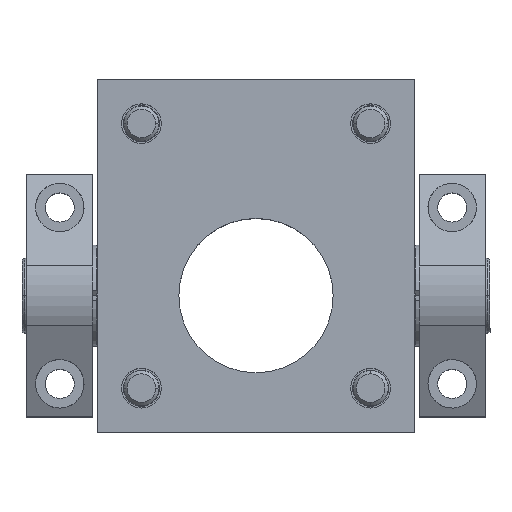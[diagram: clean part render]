
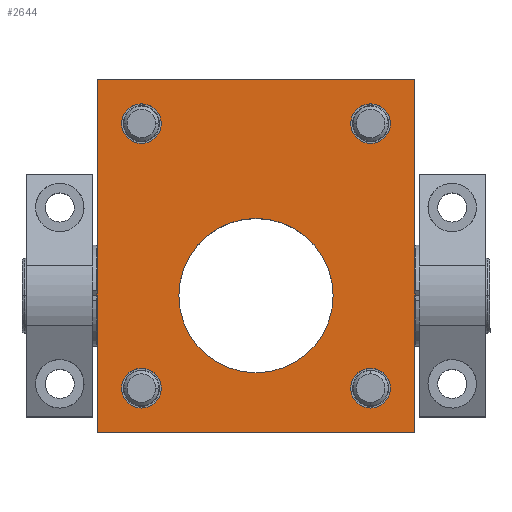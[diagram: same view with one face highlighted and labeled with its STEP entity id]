
A CAD part, top view. The second image highlights one B-rep face of the part: STEP entity #2644.
In plain terms, the highlighted planar face has unit normal (0, 0, 1).
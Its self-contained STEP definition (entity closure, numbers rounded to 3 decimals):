
#11 = ORIENTED_EDGE ( 'NONE', *, *, #3378, .T. ) ;
#56 = AXIS2_PLACEMENT_3D ( 'NONE', #6029, #5511, #1938 ) ;
#67 = CARTESIAN_POINT ( 'NONE',  ( -26., 39., -32. ) ) ;
#73 = CIRCLE ( 'NONE', #3121, 4.5 ) ;
#88 = DIRECTION ( 'NONE',  ( 1., 0., 0. ) ) ;
#186 = FACE_BOUND ( 'NONE', #780, .T. ) ;
#378 = LINE ( 'NONE', #5936, #584 ) ;
#560 = DIRECTION ( 'NONE',  ( 0., 1., 0. ) ) ;
#584 = VECTOR ( 'NONE', #2364, 1000. ) ;
#597 = VECTOR ( 'NONE', #920, 1000. ) ;
#617 = LINE ( 'NONE', #4610, #5014 ) ;
#663 = EDGE_CURVE ( 'NONE', #1255, #5333, #1238, .T. ) ;
#692 = CIRCLE ( 'NONE', #4702, 4.5 ) ;
#749 = AXIS2_PLACEMENT_3D ( 'NONE', #67, #2091, #560 ) ;
#769 = CARTESIAN_POINT ( 'NONE',  ( 26., -16.5, -32. ) ) ;
#780 = EDGE_LOOP ( 'NONE', ( #11, #2663 ) ) ;
#854 = CIRCLE ( 'NONE', #749, 4.5 ) ;
#861 = ORIENTED_EDGE ( 'NONE', *, *, #1909, .T. ) ;
#920 = DIRECTION ( 'NONE',  ( 0., -1., 0. ) ) ;
#927 = ORIENTED_EDGE ( 'NONE', *, *, #1486, .F. ) ;
#942 = DIRECTION ( 'NONE',  ( 0., 0., -1. ) ) ;
#1034 = CARTESIAN_POINT ( 'NONE',  ( -26., 34.5, -32. ) ) ;
#1048 = CARTESIAN_POINT ( 'NONE',  ( 0., 0., -32. ) ) ;
#1086 = VERTEX_POINT ( 'NONE', #3540 ) ;
#1106 = DIRECTION ( 'NONE',  ( 0., 1., 0. ) ) ;
#1168 = ORIENTED_EDGE ( 'NONE', *, *, #5071, .T. ) ;
#1192 = ORIENTED_EDGE ( 'NONE', *, *, #1267, .T. ) ;
#1213 = CIRCLE ( 'NONE', #56, 4.5 ) ;
#1238 = CIRCLE ( 'NONE', #2304, 4.5 ) ;
#1253 = CIRCLE ( 'NONE', #1906, 4.5 ) ;
#1255 = VERTEX_POINT ( 'NONE', #769 ) ;
#1267 = EDGE_CURVE ( 'NONE', #4149, #4404, #73, .T. ) ;
#1380 = DIRECTION ( 'NONE',  ( 0., 1., 0. ) ) ;
#1426 = DIRECTION ( 'NONE',  ( 0., 1., 0. ) ) ;
#1486 = EDGE_CURVE ( 'NONE', #2241, #2411, #5949, .T. ) ;
#1528 = ORIENTED_EDGE ( 'NONE', *, *, #5021, .F. ) ;
#1633 = DIRECTION ( 'NONE',  ( 0., 0., -1. ) ) ;
#1697 = EDGE_LOOP ( 'NONE', ( #2788, #1528, #5229, #927 ) ) ;
#1712 = CARTESIAN_POINT ( 'NONE',  ( -26., -21., -32. ) ) ;
#1718 = VERTEX_POINT ( 'NONE', #4752 ) ;
#1721 = FACE_BOUND ( 'NONE', #4464, .T. ) ;
#1788 = FACE_OUTER_BOUND ( 'NONE', #1697, .T. ) ;
#1830 = CIRCLE ( 'NONE', #4439, 4.5 ) ;
#1870 = CIRCLE ( 'NONE', #6402, 17.5 ) ;
#1906 = AXIS2_PLACEMENT_3D ( 'NONE', #1712, #1633, #3239 ) ;
#1909 = EDGE_CURVE ( 'NONE', #4404, #4149, #854, .T. ) ;
#1938 = DIRECTION ( 'NONE',  ( 0., 1., 0. ) ) ;
#1993 = EDGE_CURVE ( 'NONE', #1718, #4544, #1830, .T. ) ;
#2004 = EDGE_LOOP ( 'NONE', ( #4543, #2042 ) ) ;
#2022 = EDGE_CURVE ( 'NONE', #5333, #1255, #4847, .T. ) ;
#2042 = ORIENTED_EDGE ( 'NONE', *, *, #1993, .T. ) ;
#2091 = DIRECTION ( 'NONE',  ( 0., 0., -1. ) ) ;
#2179 = CARTESIAN_POINT ( 'NONE',  ( 26., 39., -32. ) ) ;
#2204 = CARTESIAN_POINT ( 'NONE',  ( 26., -21., -32. ) ) ;
#2211 = CARTESIAN_POINT ( 'NONE',  ( 0., 9., -32. ) ) ;
#2227 = EDGE_LOOP ( 'NONE', ( #861, #1192 ) ) ;
#2241 = VERTEX_POINT ( 'NONE', #2583 ) ;
#2281 = CARTESIAN_POINT ( 'NONE',  ( 26., -25.5, -32. ) ) ;
#2304 = AXIS2_PLACEMENT_3D ( 'NONE', #2204, #5443, #4355 ) ;
#2364 = DIRECTION ( 'NONE',  ( -1., 0., 0. ) ) ;
#2407 = CARTESIAN_POINT ( 'NONE',  ( 0., 0., -32. ) ) ;
#2410 = EDGE_CURVE ( 'NONE', #2411, #4145, #378, .T. ) ;
#2411 = VERTEX_POINT ( 'NONE', #4365 ) ;
#2414 = ORIENTED_EDGE ( 'NONE', *, *, #663, .T. ) ;
#2514 = ORIENTED_EDGE ( 'NONE', *, *, #2022, .T. ) ;
#2531 = EDGE_CURVE ( 'NONE', #3722, #1086, #6405, .T. ) ;
#2583 = CARTESIAN_POINT ( 'NONE',  ( 36., 49., -32. ) ) ;
#2639 = ORIENTED_EDGE ( 'NONE', *, *, #2531, .T. ) ;
#2644 = ADVANCED_FACE ( 'NONE', ( #3782, #2729, #1721, #5160, #186, #1788 ), #4238, .T. ) ;
#2663 = ORIENTED_EDGE ( 'NONE', *, *, #5536, .T. ) ;
#2729 = FACE_BOUND ( 'NONE', #2227, .T. ) ;
#2788 = ORIENTED_EDGE ( 'NONE', *, *, #5551, .F. ) ;
#2822 = DIRECTION ( 'NONE',  ( 0., 0., -1. ) ) ;
#2835 = DIRECTION ( 'NONE',  ( 0., 0., -1. ) ) ;
#2938 = CARTESIAN_POINT ( 'NONE',  ( -36., 49., -32. ) ) ;
#3036 = VERTEX_POINT ( 'NONE', #5455 ) ;
#3065 = DIRECTION ( 'NONE',  ( 0., 0., -1. ) ) ;
#3121 = AXIS2_PLACEMENT_3D ( 'NONE', #5289, #2835, #4243 ) ;
#3187 = DIRECTION ( 'NONE',  ( 0., 0., 1. ) ) ;
#3239 = DIRECTION ( 'NONE',  ( 0., 1., 0. ) ) ;
#3310 = VERTEX_POINT ( 'NONE', #3474 ) ;
#3378 = EDGE_CURVE ( 'NONE', #3310, #3688, #1213, .T. ) ;
#3381 = CARTESIAN_POINT ( 'NONE',  ( 26., -21., -32. ) ) ;
#3474 = CARTESIAN_POINT ( 'NONE',  ( 26., 43.5, -32. ) ) ;
#3494 = CARTESIAN_POINT ( 'NONE',  ( 0., 17.5, -32. ) ) ;
#3520 = DIRECTION ( 'NONE',  ( 0., 1., 0. ) ) ;
#3540 = CARTESIAN_POINT ( 'NONE',  ( 0., -17.5, -32. ) ) ;
#3583 = CARTESIAN_POINT ( 'NONE',  ( -36., -31., -32. ) ) ;
#3625 = AXIS2_PLACEMENT_3D ( 'NONE', #2407, #942, #4849 ) ;
#3688 = VERTEX_POINT ( 'NONE', #5924 ) ;
#3722 = VERTEX_POINT ( 'NONE', #3494 ) ;
#3782 = FACE_BOUND ( 'NONE', #4024, .T. ) ;
#4015 = LINE ( 'NONE', #2938, #5212 ) ;
#4024 = EDGE_LOOP ( 'NONE', ( #2639, #1168 ) ) ;
#4145 = VERTEX_POINT ( 'NONE', #3583 ) ;
#4149 = VERTEX_POINT ( 'NONE', #1034 ) ;
#4238 = PLANE ( 'NONE',  #4575 ) ;
#4243 = DIRECTION ( 'NONE',  ( 0., 1., 0. ) ) ;
#4355 = DIRECTION ( 'NONE',  ( 0., 1., 0. ) ) ;
#4362 = DIRECTION ( 'NONE',  ( 0., 1., 0. ) ) ;
#4365 = CARTESIAN_POINT ( 'NONE',  ( 36., -31., -32. ) ) ;
#4404 = VERTEX_POINT ( 'NONE', #5761 ) ;
#4439 = AXIS2_PLACEMENT_3D ( 'NONE', #5384, #2822, #1380 ) ;
#4464 = EDGE_LOOP ( 'NONE', ( #2414, #2514 ) ) ;
#4543 = ORIENTED_EDGE ( 'NONE', *, *, #5932, .T. ) ;
#4544 = VERTEX_POINT ( 'NONE', #5858 ) ;
#4575 = AXIS2_PLACEMENT_3D ( 'NONE', #2211, #3187, #5186 ) ;
#4610 = CARTESIAN_POINT ( 'NONE',  ( 36., 49., -32. ) ) ;
#4702 = AXIS2_PLACEMENT_3D ( 'NONE', #2179, #6173, #1106 ) ;
#4752 = CARTESIAN_POINT ( 'NONE',  ( -26., -25.5, -32. ) ) ;
#4847 = CIRCLE ( 'NONE', #6538, 4.5 ) ;
#4849 = DIRECTION ( 'NONE',  ( 0., 1., 0. ) ) ;
#5014 = VECTOR ( 'NONE', #88, 1000. ) ;
#5021 = EDGE_CURVE ( 'NONE', #4145, #3036, #4015, .T. ) ;
#5071 = EDGE_CURVE ( 'NONE', #1086, #3722, #1870, .T. ) ;
#5160 = FACE_BOUND ( 'NONE', #2004, .T. ) ;
#5186 = DIRECTION ( 'NONE',  ( 0., -1., 0. ) ) ;
#5212 = VECTOR ( 'NONE', #3520, 1000. ) ;
#5229 = ORIENTED_EDGE ( 'NONE', *, *, #2410, .F. ) ;
#5289 = CARTESIAN_POINT ( 'NONE',  ( -26., 39., -32. ) ) ;
#5333 = VERTEX_POINT ( 'NONE', #2281 ) ;
#5384 = CARTESIAN_POINT ( 'NONE',  ( -26., -21., -32. ) ) ;
#5439 = CARTESIAN_POINT ( 'NONE',  ( 36., -31., -32. ) ) ;
#5443 = DIRECTION ( 'NONE',  ( 0., 0., -1. ) ) ;
#5455 = CARTESIAN_POINT ( 'NONE',  ( -36., 49., -32. ) ) ;
#5511 = DIRECTION ( 'NONE',  ( 0., 0., -1. ) ) ;
#5536 = EDGE_CURVE ( 'NONE', #3688, #3310, #692, .T. ) ;
#5551 = EDGE_CURVE ( 'NONE', #3036, #2241, #617, .T. ) ;
#5761 = CARTESIAN_POINT ( 'NONE',  ( -26., 43.5, -32. ) ) ;
#5858 = CARTESIAN_POINT ( 'NONE',  ( -26., -16.5, -32. ) ) ;
#5924 = CARTESIAN_POINT ( 'NONE',  ( 26., 34.5, -32. ) ) ;
#5932 = EDGE_CURVE ( 'NONE', #4544, #1718, #1253, .T. ) ;
#5935 = DIRECTION ( 'NONE',  ( 0., 0., -1. ) ) ;
#5936 = CARTESIAN_POINT ( 'NONE',  ( -36., -31., -32. ) ) ;
#5949 = LINE ( 'NONE', #5439, #597 ) ;
#6029 = CARTESIAN_POINT ( 'NONE',  ( 26., 39., -32. ) ) ;
#6173 = DIRECTION ( 'NONE',  ( 0., 0., -1. ) ) ;
#6402 = AXIS2_PLACEMENT_3D ( 'NONE', #1048, #3065, #1426 ) ;
#6405 = CIRCLE ( 'NONE', #3625, 17.5 ) ;
#6538 = AXIS2_PLACEMENT_3D ( 'NONE', #3381, #5935, #4362 ) ;
